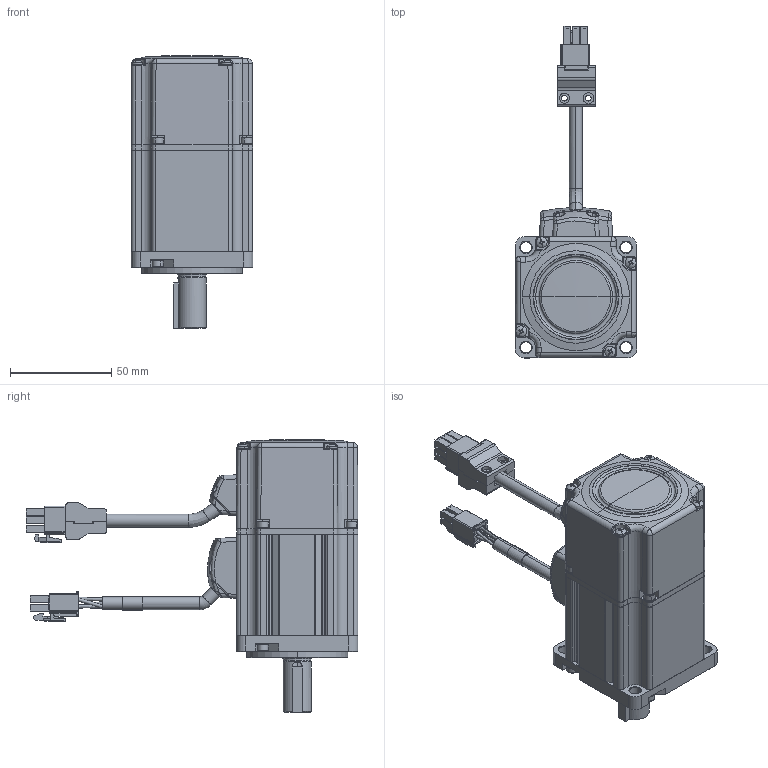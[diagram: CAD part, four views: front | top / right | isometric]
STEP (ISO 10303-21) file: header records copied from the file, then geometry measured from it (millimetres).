
FILE_DESCRIPTION (( 'STEP AP203' ), '1' );
FILE_NAME ('SM0601AE4-KCD-NNV(-B).STEP', '2016-07-11T05:56:37', ( '' ), ( '' ), 'SwSTEP 2.0', 'SolidWorks 2012', '' );
FILE_SCHEMA (( 'CONFIG_CONTROL_DESIGN' ));
Length unit declared in the file: millimetre
Products named in the file (1): SM0601AE4-KCD-NNV(-B)
Bounding box: 60 x 164.07 x 135 mm (x, y, z)
Surface area: 53870.9 mm2 (no closed solid volume)
Topology: 0 solids, 44 shells, 1174 faces, 3475 edges, 2315 vertices
Faces by surface type: plane 521, cylinder 314, bspline 138, cone 115, torus 70, sphere 16
Entity records: 44242 total; most frequent: CARTESIAN_POINT 13570, DIRECTION 6339, ORIENTED_EDGE 6014, EDGE_CURVE 3471, VERTEX_POINT 2315, AXIS2_PLACEMENT_3D 2178, VECTOR 1983, LINE 1983
